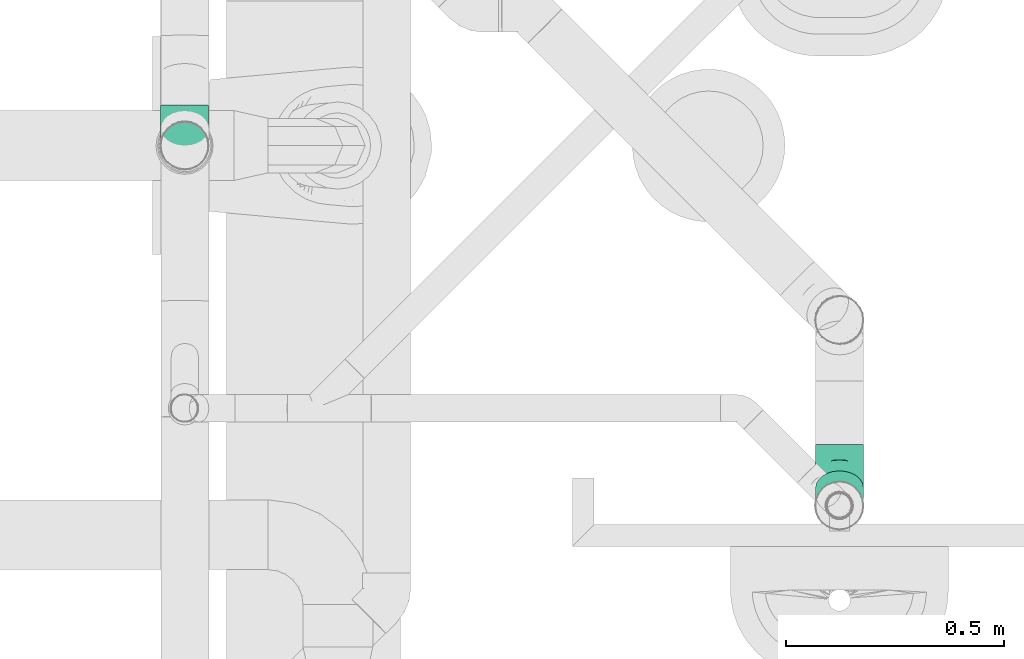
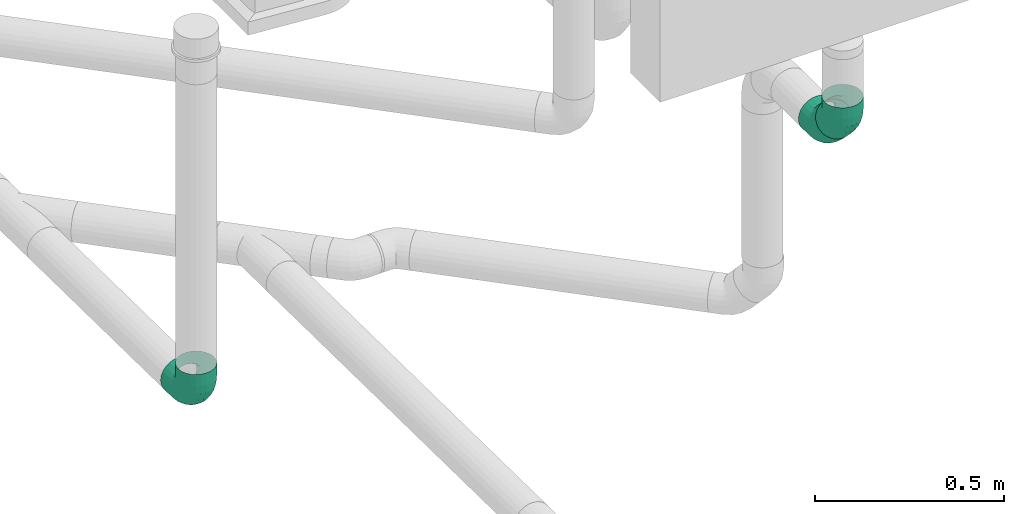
# One storey, part 127 of 374: 3 flow fittings.
"""IFC2X3 building model written with IfcOpenShell, lengths in metres."""

from ifc_helpers import new_model, si_unit, direction, origin, place, context, subcontext, project, spatial, open_shell, surface_model, source, transform, mapped, element, save


model = new_model("IFC2X3")

# Units and contexts
model_context = context("Model", 3, precision=1e-05, world=origin(), true_north=direction((-0.4480736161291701, 0.8939966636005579)))
body_context = subcontext(model_context, "Body", "Model", "MODEL_VIEW")
ifc_project = project(units=[si_unit("LENGTHUNIT", "METRE"), si_unit("AREAUNIT", "SQUARE_METRE"), si_unit("VOLUMEUNIT", "CUBIC_METRE"), si_unit("PLANEANGLEUNIT", "RADIAN"), si_unit("THERMODYNAMICTEMPERATUREUNIT", "KELVIN"), si_unit("MASSUNIT", "GRAM", prefix="KILO"), si_unit("TIMEUNIT", "SECOND")], contexts=[model_context])

# Site, building, storey
site_placement = place(None, origin())
site = spatial("IfcSite", under=ifc_project, at=site_placement, Name="Site 1", CompositionType="ELEMENT")
building_placement = place(site_placement, origin())
building = spatial("IfcBuilding", under=site, at=building_placement, Name="Undefined", CompositionType="ELEMENT")
storey_placement = place(building_placement, origin())
storey = spatial("IfcBuildingStorey", under=building, at=storey_placement, Name="Rez de chauss\x8ee", CompositionType="ELEMENT", Elevation=0.0)

# Flow fittings
shared_shape_1 = source(origin(), body_context, "Body", "SurfaceModel", [
    surface_model("IfcFaceBasedSurfaceModel", [(0.0, 0.014357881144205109, -3.552713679e-15), (0.0, 0.0, 0.0), (0.03509999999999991, 1.776356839e-15, -1.776356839e-15), (0.03509999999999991, 0.014357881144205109, 0.0), (0.0, -0.01386864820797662, -0.0037160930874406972), (0.035100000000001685, -0.01386864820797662, -0.003716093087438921), (0.0, -0.026302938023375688, -0.010895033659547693), (0.03509999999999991, -0.026302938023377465, -0.010895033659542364), (0.0, -0.03645549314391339, -0.021047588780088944), (0.035100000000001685, -0.03645549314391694, -0.021047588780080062), (0.0, -0.04363443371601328, -0.033481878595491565), (0.035100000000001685, -0.043634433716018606, -0.03348187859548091), (0.0, -0.04735052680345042, -0.04735052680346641), (0.03510000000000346, -0.04735052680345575, -0.04735052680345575), (0.0, -0.04735052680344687, -0.06170840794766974), (0.035100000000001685, -0.047350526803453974, -0.061708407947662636), (0.0, -0.04363443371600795, -0.07557705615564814), (0.035100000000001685, -0.04363443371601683, -0.07557705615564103), (0.0, -0.03645549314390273, -0.08801134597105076), (0.035100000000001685, -0.03645549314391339, -0.08801134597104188), (0.0, -0.026302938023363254, -0.0981639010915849), (0.03510000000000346, -0.026302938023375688, -0.09816390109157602), (0.0, -0.013868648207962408, -0.1053428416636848), (0.03510000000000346, -0.013868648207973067, -0.10534284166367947), (0.0, 1.5987211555e-14, -0.10905893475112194), (0.03510000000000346, 5.329070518e-15, -0.10905893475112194), (0.0, 0.014357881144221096, -0.10905893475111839), (0.035100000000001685, 0.014357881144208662, -0.10905893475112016), (0.0, 0.028226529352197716, -0.10534284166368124), (0.03510000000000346, 0.02822652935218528, -0.10534284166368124), (0.0, 0.040660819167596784, -0.0981639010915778), (0.03510000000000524, 0.040660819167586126, -0.09816390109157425), (0.0, 0.05081337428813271, -0.08801134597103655), (0.035100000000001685, 0.050813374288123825, -0.08801134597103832), (0.0, 0.05799231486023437, -0.07557705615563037), (0.035100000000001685, 0.05799231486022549, -0.07557705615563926), (0.0, 0.06170840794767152, -0.06170840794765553), (0.035100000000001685, 0.06170840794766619, -0.06170840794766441), (0.0, 0.061708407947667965, -0.0473505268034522), (0.035100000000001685, 0.061708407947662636, -0.0473505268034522), (0.0, 0.05799231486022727, -0.033481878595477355), (0.03510000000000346, 0.057992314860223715, -0.033481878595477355), (0.0, 0.050813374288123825, -0.021047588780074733), (0.035100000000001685, 0.05081337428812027, -0.021047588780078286), (0.0, 0.04066081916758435, -0.010895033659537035), (0.035100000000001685, 0.040660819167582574, -0.010895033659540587), (0.0, 0.028226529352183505, -0.0037160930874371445), (0.035100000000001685, 0.028226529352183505, -0.003716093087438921), (0.06308504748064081, -0.04369774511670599, -0.06218930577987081), (0.06357009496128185, -0.04363443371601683, -0.04783975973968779), (0.08916296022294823, -0.03298833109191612, -0.0635992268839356), (0.09010000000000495, -0.032739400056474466, -0.04927411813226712), (0.11155657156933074, -0.015952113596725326, -0.06584208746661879), (0.11288174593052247, -0.015407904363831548, -0.051555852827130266), (0.061662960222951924, -0.040167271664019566, -0.07603351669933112), (0.08641569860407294, -0.030002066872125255, -0.07737179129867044), (0.10767135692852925, -0.013831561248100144, -0.07950067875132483), (0.05940074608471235, -0.03328360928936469, -0.08842893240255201), (0.08204543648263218, -0.023984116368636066, -0.0896532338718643), (0.10149087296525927, -0.009190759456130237, -0.09160081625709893), (0.05645257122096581, -0.02351586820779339, -0.09853082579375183), (0.07635000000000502, -0.015344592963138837, -0.09960659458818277), (0.09343630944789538, -0.0023459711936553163, -0.10131789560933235), (0.053019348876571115, -0.011529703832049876, -0.1056507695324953), (0.06971752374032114, -0.004672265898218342, -0.10655356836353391), (0.08405657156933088, 0.006236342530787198, -0.10798971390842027), (0.049335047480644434, 0.0018580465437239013, -0.10930355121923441), (0.06260000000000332, 0.007305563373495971, -0.1100207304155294), (0.07399087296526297, 0.015971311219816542, -0.11116159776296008), (0.0456507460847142, 0.015735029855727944, -0.1092402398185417), (0.05548247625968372, 0.01977262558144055, -0.10977179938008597), (0.0639251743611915, 0.0261955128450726, -0.11061738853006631), (0.042217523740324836, 0.029155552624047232, -0.10546514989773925), (0.04885000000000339, 0.03187931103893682, -0.10582373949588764), (0.05454543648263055, 0.03621218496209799, -0.10639417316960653), (0.03926934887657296, 0.04120502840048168, -0.09823554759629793), (0.043154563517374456, 0.04280056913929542, -0.09844560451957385), (0.046490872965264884, 0.045338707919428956, -0.09877975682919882), (0.03700713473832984, 0.05106230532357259, -0.08804411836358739), (0.03878430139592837, 0.05179213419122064, -0.08814020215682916), (0.04031038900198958, 0.052953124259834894, -0.08829304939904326), (0.03558504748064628, 0.058055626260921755, -0.07558539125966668), (0.03603703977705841, 0.0582412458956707, -0.07560982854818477), (0.03642517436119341, 0.05853652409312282, -0.07564870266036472), (0.035585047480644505, 0.0617717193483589, -0.047358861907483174), (0.036037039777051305, 0.0619573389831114, -0.04738329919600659), (0.03642517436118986, 0.06225261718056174, -0.04742217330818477), (0.037007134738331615, 0.05824124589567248, -0.03351465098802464), (0.03878430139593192, 0.05897107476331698, -0.03361073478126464), (0.04031038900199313, 0.06013206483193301, -0.03376358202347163), (0.039269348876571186, 0.05135758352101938, -0.02111923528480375), (0.04315456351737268, 0.05295312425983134, -0.021329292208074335), (0.046490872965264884, 0.05549126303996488, -0.021663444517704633), (0.04221752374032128, 0.041589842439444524, -0.01101734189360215), (0.04884999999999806, 0.044313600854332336, -0.011375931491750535), (0.054545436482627, 0.04864647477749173, -0.01194636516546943), (0.04565074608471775, 0.029603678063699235, -0.003897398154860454), (0.05548247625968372, 0.03364127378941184, -0.004428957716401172), (0.0639251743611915, 0.040064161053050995, -0.005274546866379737), (0.04933504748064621, 0.016215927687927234, -0.0002446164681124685), (0.06260000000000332, 0.021663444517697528, -0.000961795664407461), (0.07399087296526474, 0.030329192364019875, -0.002102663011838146), (0.05301934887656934, 0.0023389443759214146, -0.0003079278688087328), (0.06971752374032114, 0.009196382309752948, -0.0012107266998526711), (0.08405657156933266, 0.020104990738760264, -0.0026468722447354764), (0.05645257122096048, -0.011081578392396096, -0.004083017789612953), (0.0763499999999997, -0.002910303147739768, -0.0051587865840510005), (0.09343630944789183, 0.010088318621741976, -0.006870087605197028), (0.059400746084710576, -0.023131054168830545, -0.011312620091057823), (0.08204543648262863, -0.01383156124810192, -0.012536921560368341), (0.1014908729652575, 0.0009617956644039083, -0.01448450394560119), (0.0616629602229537, -0.032988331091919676, -0.021504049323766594), (0.0864156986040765, -0.022823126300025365, -0.022842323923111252), (0.10767135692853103, -0.006652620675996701, -0.024971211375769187), (0.06308504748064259, -0.03998165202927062, -0.033962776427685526), (0.08916296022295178, -0.02927223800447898, -0.035372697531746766), (0.1115565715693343, -0.012236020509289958, -0.03761555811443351), (0.1363760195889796, 0.008655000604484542, -0.06908167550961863), (0.13770119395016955, 0.00919920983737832, -0.05479544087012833), (0.13249080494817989, 0.0107755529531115, -0.08274026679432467), (0.12631032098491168, 0.01541635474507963, -0.09484040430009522), (0.11825575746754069, 0.02226114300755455, -0.10455748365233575), (0.1088760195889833, 0.03084345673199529, -0.11122930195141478), (0.09881032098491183, 0.04057842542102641, -0.11440118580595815), (0.08874462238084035, 0.05080262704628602, -0.11385697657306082), (0.07936488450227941, 0.06081929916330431, -0.10963376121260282), (0.07131032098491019, 0.0699458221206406, -0.10201934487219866), (0.06512983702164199, 0.07756023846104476, -0.09153263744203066), (0.06124462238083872, 0.08314363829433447, -0.07888829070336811), (0.059919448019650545, 0.08631552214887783, -0.0649479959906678), (0.06124462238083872, 0.08685973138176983, -0.05066176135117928), (0.06512983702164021, 0.08473917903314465, -0.03700317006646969), (0.07131032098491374, 0.08009837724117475, -0.024903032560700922), (0.07936488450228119, 0.07325358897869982, -0.015185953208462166), (0.0887446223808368, 0.06467127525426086, -0.008514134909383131), (0.09881032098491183, 0.05493630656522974, -0.005342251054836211), (0.10887601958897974, 0.04471210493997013, -0.0058864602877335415), (0.11825575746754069, 0.03469543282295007, -0.010109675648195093), (0.1263103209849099, 0.02556890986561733, -0.017724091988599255), (0.13249080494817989, 0.017954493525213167, -0.0282107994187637), (0.13637601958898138, 0.012371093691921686, -0.04085514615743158)], [open_shell([[[0, 1, 2, 3]], [[1, 4, 5, 2]], [[4, 6, 7, 5]], [[6, 8, 9, 7]], [[8, 10, 11, 9]], [[10, 12, 13, 11]], [[12, 14, 15, 13]], [[14, 16, 17, 15]], [[16, 18, 19, 17]], [[18, 20, 21, 19]], [[20, 22, 23, 21]], [[22, 24, 25, 23]], [[24, 26, 27, 25]], [[26, 28, 29, 27]], [[28, 30, 31, 29]], [[30, 32, 33, 31]], [[32, 34, 35, 33]], [[34, 36, 37, 35]], [[36, 38, 39, 37]], [[38, 40, 41, 39]], [[40, 42, 43, 41]], [[42, 44, 45, 43]], [[44, 46, 47, 45]], [[46, 0, 3, 47]], [[13, 15, 48, 49]], [[49, 48, 50, 51]], [[51, 50, 52, 53]], [[15, 17, 54, 48]], [[48, 54, 55, 50]], [[50, 55, 56, 52]], [[17, 19, 57, 54]], [[54, 57, 58, 55]], [[55, 58, 59, 56]], [[19, 21, 60, 57]], [[57, 60, 61, 58]], [[58, 61, 62, 59]], [[21, 23, 63, 60]], [[60, 63, 64, 61]], [[61, 64, 65, 62]], [[23, 25, 66, 63]], [[63, 66, 67, 64]], [[64, 67, 68, 65]], [[25, 27, 69, 66]], [[66, 69, 70, 67]], [[67, 70, 71, 68]], [[27, 29, 72, 69]], [[69, 72, 73, 70]], [[70, 73, 74, 71]], [[29, 31, 75, 72]], [[72, 75, 76, 73]], [[73, 76, 77, 74]], [[31, 33, 78, 75]], [[75, 78, 79, 76]], [[76, 79, 80, 77]], [[33, 35, 81, 78]], [[78, 81, 82, 79]], [[79, 82, 83, 80]], [[35, 37, 81]], [[81, 37, 82]], [[82, 37, 83]], [[37, 39, 84]], [[37, 84, 85]], [[37, 85, 86]], [[39, 41, 87, 84]], [[84, 87, 88, 85]], [[85, 88, 89, 86]], [[41, 43, 90, 87]], [[87, 90, 91, 88]], [[88, 91, 92, 89]], [[43, 45, 93, 90]], [[90, 93, 94, 91]], [[91, 94, 95, 92]], [[45, 47, 96, 93]], [[93, 96, 97, 94]], [[94, 97, 98, 95]], [[47, 3, 99, 96]], [[96, 99, 100, 97]], [[97, 100, 101, 98]], [[3, 2, 102, 99]], [[99, 102, 103, 100]], [[100, 103, 104, 101]], [[2, 5, 105, 102]], [[102, 105, 106, 103]], [[103, 106, 107, 104]], [[5, 7, 108, 105]], [[105, 108, 109, 106]], [[106, 109, 110, 107]], [[7, 9, 111, 108]], [[108, 111, 112, 109]], [[109, 112, 113, 110]], [[9, 11, 114, 111]], [[111, 114, 115, 112]], [[112, 115, 116, 113]], [[11, 13, 49, 114]], [[114, 49, 51, 115]], [[115, 51, 53, 116]], [[53, 52, 117, 118]], [[52, 56, 119, 117]], [[56, 59, 120, 119]], [[59, 62, 121, 120]], [[62, 65, 122, 121]], [[65, 68, 123, 122]], [[68, 71, 124, 123]], [[71, 74, 125, 124]], [[74, 77, 126, 125]], [[77, 80, 127, 126]], [[80, 83, 128, 127]], [[83, 37, 129, 128]], [[37, 86, 130, 129]], [[86, 89, 131, 130]], [[89, 92, 132, 131]], [[92, 95, 133, 132]], [[95, 98, 134, 133]], [[98, 101, 135, 134]], [[101, 104, 136, 135]], [[104, 107, 137, 136]], [[107, 110, 138, 137]], [[110, 113, 139, 138]], [[113, 116, 140, 139]], [[116, 53, 118, 140]]])]),
])
flow_fitting_1_placement = place(storey_placement, origin())
element("IfcFlowFitting", 1, at=flow_fitting_1_placement, inside=storey, Name="PE-HD coude 45°", ObjectType="PE-HD coude 45°", context=body_context, shape_type="MappedRepresentation", body=[
    mapped(shared_shape_1, transform((58.62813344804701, 11.972476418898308, -0.2506836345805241), x_axis=(0.0, 0.0, -1.0), y_axis=(0.13052619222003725, 0.9914448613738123, 0.0), z_axis=(0.9914448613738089, -0.13052619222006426, 0.0))),
])
flow_fitting_2_placement = place(storey_placement, origin())
element("IfcFlowFitting", 2, at=flow_fitting_2_placement, inside=storey, Name="PE-HD coude 45°", ObjectType="PE-HD coude 45°", context=body_context, shape_type="MappedRepresentation", body=[
    mapped(shared_shape_1, transform((58.62813344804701, 12.017574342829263, -0.3595596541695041), x_axis=(-5.23364153e-16, 0.7071067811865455, -0.7071067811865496), y_axis=(0.13052619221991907, 0.7010573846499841, 0.7010573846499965), z_axis=(0.9914448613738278, -0.09229595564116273, -0.09229595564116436))),
])
shared_shape_2 = source(origin(), body_context, "Body", "SurfaceModel", [
    surface_model("IfcFaceBasedSurfaceModel", [(0.0, 0.014357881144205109, -3.552713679e-15), (0.0, 0.0, 0.0), (0.03869999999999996, -7.105427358e-15, 7.105427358e-15), (0.03869999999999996, 0.014357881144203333, 7.105427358e-15), (0.0, -0.01386864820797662, -0.0037160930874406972), (0.03869999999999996, -0.013868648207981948, -0.003716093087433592), (0.0, -0.026302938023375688, -0.010895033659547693), (0.03869999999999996, -0.02630293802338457, -0.010895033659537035), (0.0, -0.03645549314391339, -0.021047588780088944), (0.03869999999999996, -0.03645549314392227, -0.02104758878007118), (0.0, -0.04363443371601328, -0.033481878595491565), (0.03869999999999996, -0.043634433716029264, -0.033481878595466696), (0.0, -0.04735052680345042, -0.04735052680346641), (0.03869999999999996, -0.047350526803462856, -0.04735052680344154), (0.0, -0.04735052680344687, -0.06170840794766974), (0.03869999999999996, -0.047350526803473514, -0.061708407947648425), (0.0, -0.04363443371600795, -0.07557705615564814), (0.03869999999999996, -0.043634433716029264, -0.07557705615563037), (0.0, -0.03645549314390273, -0.08801134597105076), (0.03869999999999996, -0.03645549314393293, -0.088011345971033), (0.0, -0.026302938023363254, -0.0981639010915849), (0.03869999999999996, -0.02630293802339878, -0.09816390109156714), (0.0, -0.013868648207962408, -0.1053428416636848), (0.03869999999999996, -0.013868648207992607, -0.10534284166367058), (0.0, 1.5987211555e-14, -0.10905893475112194), (0.03869999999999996, -1.4210854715e-14, -0.10905893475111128), (0.0, 0.014357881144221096, -0.10905893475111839), (0.03869999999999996, 0.01435788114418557, -0.10905893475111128), (0.0, 0.028226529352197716, -0.10534284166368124), (0.03869999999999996, 0.028226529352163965, -0.10534284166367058), (0.0, 0.040660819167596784, -0.0981639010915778), (0.03869999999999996, 0.040660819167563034, -0.09816390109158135), (0.0, 0.05081337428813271, -0.08801134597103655), (0.03869999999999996, 0.050813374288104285, -0.088011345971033), (0.0, 0.05799231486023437, -0.07557705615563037), (0.03869999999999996, 0.05799231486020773, -0.07557705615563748), (0.0, 0.06170840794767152, -0.06170840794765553), (0.03869999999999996, 0.06170840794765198, -0.061708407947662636), (0.0, 0.061708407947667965, -0.0473505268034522), (0.03869999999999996, 0.06170840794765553, -0.047350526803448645), (0.0, 0.05799231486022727, -0.033481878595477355), (0.03869999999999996, 0.05799231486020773, -0.03348187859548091), (0.0, 0.050813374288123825, -0.021047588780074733), (0.03869999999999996, 0.05081337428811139, -0.02104758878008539), (0.0, 0.04066081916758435, -0.010895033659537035), (0.03869999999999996, 0.040660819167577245, -0.01089503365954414), (0.0, 0.028226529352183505, -0.0037160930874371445), (0.03869999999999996, 0.028226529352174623, -0.0037160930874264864), (0.06642387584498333, -0.04376678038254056, -0.06218021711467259), (0.06690439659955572, -0.043704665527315, -0.04783051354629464), (0.09229412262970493, -0.033255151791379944, -0.06356409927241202), (0.09322303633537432, -0.03301084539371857, -0.04923838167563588), (0.11458104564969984, -0.01651845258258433, -0.06576752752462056), (0.11589624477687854, -0.015984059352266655, -0.051480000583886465), (0.1317945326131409, 0.0053242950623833, -0.06864317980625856), (0.13340808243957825, 0.006237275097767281, -0.05440549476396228), (0.1427836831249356, 0.03081267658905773, -0.07199878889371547), (0.14458770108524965, 0.03216743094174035, -0.05781926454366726), (0.14681375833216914, 0.05824252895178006, -0.07560999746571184), (0.14868762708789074, 0.060072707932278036, -0.06149306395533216), (0.06501506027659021, -0.040232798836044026, -0.07602488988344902), (0.08957068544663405, -0.030255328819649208, -0.07733844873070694), (0.11072507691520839, -0.014369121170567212, -0.07942990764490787), (0.12706384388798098, 0.0063636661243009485, -0.08215943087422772), (0.1374945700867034, 0.03055683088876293, -0.08534452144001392), (0.14131985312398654, 0.05659280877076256, -0.08877222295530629), (0.06277395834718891, -0.03334355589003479, -0.0884210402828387), (0.08523832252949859, -0.02421580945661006, -0.08962273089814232), (0.1045911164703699, -0.009682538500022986, -0.09153607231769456), (0.11953840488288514, 0.009284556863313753, -0.0940331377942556), (0.1290808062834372, 0.03141732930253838, -0.09694697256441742), (0.13258031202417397, 0.05523597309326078, -0.10008275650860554), (0.05985329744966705, -0.023568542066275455, -0.09852389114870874), (0.07959227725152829, -0.015548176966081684, -0.0995797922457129), (0.09659718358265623, -0.002778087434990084, -0.10126100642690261), (0.1097310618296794, 0.01388791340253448, -0.10345512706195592), (0.11811577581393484, 0.0333355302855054, -0.10601545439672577), (0.12119072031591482, 0.054264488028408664, -0.10877080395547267), (0.05645211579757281, -0.011573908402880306, -0.10564494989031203), (0.07301731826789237, -0.004843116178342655, -0.10653107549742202), (0.08728805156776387, 0.005873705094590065, -0.10794197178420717), (0.09831016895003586, 0.019860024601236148, -0.10978330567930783), (0.10534672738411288, 0.036180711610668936, -0.11193196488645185), (0.10792725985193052, 0.053744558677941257, -0.114244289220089), (0.052802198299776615, 0.0018229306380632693, -0.10929892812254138), (0.06596151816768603, 0.007169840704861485, -0.11000286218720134), (0.0772981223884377, 0.015683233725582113, -0.11112367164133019), (0.08605404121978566, 0.026793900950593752, -0.1125864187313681), (0.09164385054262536, 0.03975897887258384, -0.11429330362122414), (0.09369381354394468, 0.05371161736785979, -0.11613020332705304), (0.049152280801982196, 0.01570900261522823, -0.10923681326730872), (0.05890571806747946, 0.019672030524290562, -0.10975855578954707), (0.06730819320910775, 0.025981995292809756, -0.11058927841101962), (0.07379791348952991, 0.034217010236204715, -0.11167343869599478), (0.07794097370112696, 0.04382647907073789, -0.11293854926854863), (0.07946036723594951, 0.0541679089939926, -0.11430002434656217), (0.04575109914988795, 0.02913799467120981, -0.10546283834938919), (0.05233075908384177, 0.03181144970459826, -0.10581480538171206), (0.057999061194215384, 0.036068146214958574, -0.10637521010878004), (0.06237702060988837, 0.041623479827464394, -0.10710658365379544), (0.06517192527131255, 0.04810601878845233, -0.10796002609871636), (0.0661969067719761, 0.05508233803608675, -0.10887847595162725), (0.0428304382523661, 0.04119474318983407, -0.09823419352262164), (0.04668471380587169, 0.04276081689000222, -0.09844037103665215), (0.05000512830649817, 0.0452543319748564, -0.0987686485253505), (0.05256967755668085, 0.04850857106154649, -0.09919707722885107), (0.054206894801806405, 0.052305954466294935, -0.09969701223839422), (0.05480731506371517, 0.05639258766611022, -0.1002350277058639), (0.04058933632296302, 0.051057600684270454, -0.08804349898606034), (0.04235235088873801, 0.05177395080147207, -0.08813780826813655), (0.043871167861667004, 0.05291452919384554, -0.08828796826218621), (0.04504423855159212, 0.05440307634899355, -0.08848393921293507), (0.04579313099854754, 0.056140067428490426, -0.08871261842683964), (0.04606777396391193, 0.058009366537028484, -0.08895871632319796), (0.03918052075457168, 0.05805442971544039, -0.07558523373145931), (0.039628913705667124, 0.05823662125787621, -0.07560921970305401), (0.040015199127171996, 0.0585267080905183, -0.07564741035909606), (0.040313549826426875, 0.05890529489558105, -0.07569725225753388), (0.040504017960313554, 0.05934706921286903, -0.07575541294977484), (0.04057386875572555, 0.05982249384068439, -0.07581800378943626), (0.03918052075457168, 0.06177052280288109, -0.04735870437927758), (0.039628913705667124, 0.06195271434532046, -0.047382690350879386), (0.040015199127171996, 0.0622428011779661, -0.047420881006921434), (0.040313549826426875, 0.06262138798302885, -0.04747072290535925), (0.040504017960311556, 0.06306316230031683, -0.04752888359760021), (0.040573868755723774, 0.06353858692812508, -0.04759147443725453), (0.0405893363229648, 0.058236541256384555, -0.033514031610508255), (0.04235235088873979, 0.05895289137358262, -0.03360834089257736), (0.043871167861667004, 0.06009346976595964, -0.033758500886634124), (0.04504423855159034, 0.06158201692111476, -0.03395447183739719), (0.04579313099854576, 0.06331900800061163, -0.03418315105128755), (0.04606777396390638, 0.06518830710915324, -0.03442924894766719), (0.0428304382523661, 0.05134729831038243, -0.021117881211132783), (0.04668471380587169, 0.052913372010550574, -0.021324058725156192), (0.05000512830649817, 0.055406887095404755, -0.02165233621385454), (0.05256967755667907, 0.05866112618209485, -0.02208076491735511), (0.054206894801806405, 0.06245850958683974, -0.022580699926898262), (0.05480731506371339, 0.06654514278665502, -0.02311871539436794), (0.04575109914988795, 0.041572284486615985, -0.011015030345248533), (0.05233075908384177, 0.04424573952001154, -0.01136699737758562), (0.057999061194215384, 0.0485024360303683, -0.01192740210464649), (0.06237702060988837, 0.054057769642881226, -0.012658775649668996), (0.06517192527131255, 0.06054030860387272, -0.013512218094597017), (0.0661969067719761, 0.06751662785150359, -0.014430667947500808), (0.049152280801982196, 0.029577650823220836, -0.0038939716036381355), (0.058905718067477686, 0.03354067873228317, -0.0044157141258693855), (0.06730819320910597, 0.03985064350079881, -0.0052464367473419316), (0.07379791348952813, 0.048085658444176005, -0.006330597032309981), (0.07794097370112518, 0.05769512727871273, -0.007595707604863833), (0.07946036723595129, 0.06803655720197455, -0.008957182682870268), (0.052802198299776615, 0.01618081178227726, -0.00023999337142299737), (0.06596151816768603, 0.02152772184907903, -0.000943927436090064), (0.07729812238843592, 0.030041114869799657, -0.0020647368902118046), (0.08605404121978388, 0.04115178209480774, -0.0035274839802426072), (0.09164385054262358, 0.05411686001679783, -0.005234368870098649), (0.09369381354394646, 0.06806949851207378, -0.007071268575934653), (0.056452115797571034, 0.0022947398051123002, -0.0003021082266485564), (0.07301731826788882, 0.0090255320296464, -0.0011882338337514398), (0.08728805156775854, 0.01974235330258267, -0.002599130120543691), (0.09831016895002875, 0.03372867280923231, -0.004440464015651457), (0.10534672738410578, 0.05004935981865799, -0.006589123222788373), (0.10792725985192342, 0.0676132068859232, -0.008901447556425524), (0.05985329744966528, -0.011134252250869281, -0.004076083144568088), (0.07959227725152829, -0.0031138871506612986, -0.005131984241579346), (0.09659718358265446, 0.009656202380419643, -0.006813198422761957), (0.1097310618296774, 0.026322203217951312, -0.009007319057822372), (0.11811577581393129, 0.045769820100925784, -0.011567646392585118), (0.12119072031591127, 0.06669877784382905, -0.014322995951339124), (0.06277395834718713, -0.023191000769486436, -0.011304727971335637), (0.08523832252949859, -0.01406325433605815, -0.012506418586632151), (0.10459111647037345, 0.00047001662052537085, -0.014419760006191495), (0.11953840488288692, 0.019437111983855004, -0.01691682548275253), (0.12908080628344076, 0.041569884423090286, -0.019830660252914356), (0.13258031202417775, 0.06538852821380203, -0.022966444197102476), (0.06501506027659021, -0.033053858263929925, -0.021495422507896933), (0.08957068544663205, -0.02307638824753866, -0.022808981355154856), (0.11072507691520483, -0.007190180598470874, -0.024900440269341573), (0.1270638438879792, 0.013542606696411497, -0.027629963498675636), (0.1374945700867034, 0.03773577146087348, -0.030815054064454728), (0.14131985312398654, 0.063771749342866, -0.0342427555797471), (0.06642387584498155, -0.04005068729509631, -0.033953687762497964), (0.09229412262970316, -0.02953905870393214, -0.035337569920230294), (0.11458104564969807, -0.012802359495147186, -0.03754099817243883), (0.1317945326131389, 0.009040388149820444, -0.040416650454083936), (0.14278368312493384, 0.03452876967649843, -0.04377225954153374), (0.14681375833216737, 0.061958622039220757, -0.04738346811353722), (0.14739419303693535, 0.09660712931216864, -0.08066079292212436), (0.14926806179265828, 0.09843730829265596, -0.06654385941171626), (0.1419002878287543, 0.09495740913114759, -0.0938230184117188), (0.1331607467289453, 0.09360057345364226, -0.10513355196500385), (0.1217711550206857, 0.09262908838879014, -0.11382159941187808), (0.10850769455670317, 0.09210915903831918, -0.11929508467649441), (0.09427424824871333, 0.09207621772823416, -0.12118099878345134), (0.0800408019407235, 0.09253250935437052, -0.11935081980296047), (0.06677734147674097, 0.09344693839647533, -0.11392927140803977), (0.055387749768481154, 0.09475718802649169, -0.10528582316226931), (0.046648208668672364, 0.09637396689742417, -0.09400951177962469), (0.041154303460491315, 0.09818709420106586, -0.08086879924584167), (0.039280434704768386, 0.10007300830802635, -0.06675920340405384), (0.041154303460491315, 0.10190318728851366, -0.05264226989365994), (0.046648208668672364, 0.10355290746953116, -0.039480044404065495), (0.055387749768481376, 0.10490974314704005, -0.02816951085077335), (0.06677734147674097, 0.10588122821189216, -0.019481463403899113), (0.0800408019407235, 0.10640115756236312, -0.014007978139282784), (0.09427424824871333, 0.10643409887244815, -0.012122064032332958), (0.10850769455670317, 0.10597780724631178, -0.013952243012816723), (0.1217711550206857, 0.10506337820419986, -0.01937379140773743), (0.1331607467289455, 0.10375312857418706, -0.02801723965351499), (0.1419002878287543, 0.10213634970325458, -0.03929355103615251), (0.14739419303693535, 0.10032322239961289, -0.05243426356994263)], [open_shell([[[0, 1, 2, 3]], [[1, 4, 5, 2]], [[4, 6, 7, 5]], [[6, 8, 9, 7]], [[8, 10, 11, 9]], [[10, 12, 13, 11]], [[12, 14, 15, 13]], [[14, 16, 17, 15]], [[16, 18, 19, 17]], [[18, 20, 21, 19]], [[20, 22, 23, 21]], [[22, 24, 25, 23]], [[24, 26, 27, 25]], [[26, 28, 29, 27]], [[28, 30, 31, 29]], [[30, 32, 33, 31]], [[32, 34, 35, 33]], [[34, 36, 37, 35]], [[36, 38, 39, 37]], [[38, 40, 41, 39]], [[40, 42, 43, 41]], [[42, 44, 45, 43]], [[44, 46, 47, 45]], [[46, 0, 3, 47]], [[13, 15, 48, 49]], [[49, 48, 50, 51]], [[51, 50, 52, 53]], [[53, 52, 54, 55]], [[55, 54, 56, 57]], [[57, 56, 58, 59]], [[15, 17, 60, 48]], [[48, 60, 61, 50]], [[50, 61, 62, 52]], [[52, 62, 63, 54]], [[54, 63, 64, 56]], [[56, 64, 65, 58]], [[17, 19, 66, 60]], [[60, 66, 67, 61]], [[61, 67, 68, 62]], [[62, 68, 69, 63]], [[63, 69, 70, 64]], [[64, 70, 71, 65]], [[19, 21, 72, 66]], [[66, 72, 73, 67]], [[67, 73, 74, 68]], [[68, 74, 75, 69]], [[69, 75, 76, 70]], [[70, 76, 77, 71]], [[21, 23, 78, 72]], [[72, 78, 79, 73]], [[73, 79, 80, 74]], [[74, 80, 81, 75]], [[75, 81, 82, 76]], [[76, 82, 83, 77]], [[23, 25, 84, 78]], [[78, 84, 85, 79]], [[79, 85, 86, 80]], [[80, 86, 87, 81]], [[81, 87, 88, 82]], [[82, 88, 89, 83]], [[25, 27, 90, 84]], [[84, 90, 91, 85]], [[85, 91, 92, 86]], [[86, 92, 93, 87]], [[87, 93, 94, 88]], [[88, 94, 95, 89]], [[27, 29, 96, 90]], [[90, 96, 97, 91]], [[91, 97, 98, 92]], [[92, 98, 99, 93]], [[93, 99, 100, 94]], [[94, 100, 101, 95]], [[29, 31, 102, 96]], [[96, 102, 103, 97]], [[97, 103, 104, 98]], [[98, 104, 105, 99]], [[99, 105, 106, 100]], [[100, 106, 107, 101]], [[31, 33, 108, 102]], [[102, 108, 109, 103]], [[103, 109, 110, 104]], [[104, 110, 111, 105]], [[105, 111, 112, 106]], [[106, 112, 113, 107]], [[33, 35, 114, 108]], [[108, 114, 115, 109]], [[109, 115, 116, 110]], [[110, 116, 117, 111]], [[111, 117, 118, 112]], [[112, 118, 119, 113]], [[35, 37, 114]], [[114, 37, 115]], [[115, 37, 116]], [[116, 37, 117]], [[117, 37, 118]], [[118, 37, 119]], [[37, 39, 120]], [[37, 120, 121]], [[37, 121, 122]], [[37, 122, 123]], [[37, 123, 124]], [[37, 124, 125]], [[39, 41, 126, 120]], [[120, 126, 127, 121]], [[121, 127, 128, 122]], [[122, 128, 129, 123]], [[123, 129, 130, 124]], [[124, 130, 131, 125]], [[41, 43, 132, 126]], [[126, 132, 133, 127]], [[127, 133, 134, 128]], [[128, 134, 135, 129]], [[129, 135, 136, 130]], [[130, 136, 137, 131]], [[43, 45, 138, 132]], [[132, 138, 139, 133]], [[133, 139, 140, 134]], [[134, 140, 141, 135]], [[135, 141, 142, 136]], [[136, 142, 143, 137]], [[45, 47, 144, 138]], [[138, 144, 145, 139]], [[139, 145, 146, 140]], [[140, 146, 147, 141]], [[141, 147, 148, 142]], [[142, 148, 149, 143]], [[47, 3, 150, 144]], [[144, 150, 151, 145]], [[145, 151, 152, 146]], [[146, 152, 153, 147]], [[147, 153, 154, 148]], [[148, 154, 155, 149]], [[3, 2, 156, 150]], [[150, 156, 157, 151]], [[151, 157, 158, 152]], [[152, 158, 159, 153]], [[153, 159, 160, 154]], [[154, 160, 161, 155]], [[2, 5, 162, 156]], [[156, 162, 163, 157]], [[157, 163, 164, 158]], [[158, 164, 165, 159]], [[159, 165, 166, 160]], [[160, 166, 167, 161]], [[5, 7, 168, 162]], [[162, 168, 169, 163]], [[163, 169, 170, 164]], [[164, 170, 171, 165]], [[165, 171, 172, 166]], [[166, 172, 173, 167]], [[7, 9, 174, 168]], [[168, 174, 175, 169]], [[169, 175, 176, 170]], [[170, 176, 177, 171]], [[171, 177, 178, 172]], [[172, 178, 179, 173]], [[9, 11, 180, 174]], [[174, 180, 181, 175]], [[175, 181, 182, 176]], [[176, 182, 183, 177]], [[177, 183, 184, 178]], [[178, 184, 185, 179]], [[11, 13, 49, 180]], [[180, 49, 51, 181]], [[181, 51, 53, 182]], [[182, 53, 55, 183]], [[183, 55, 57, 184]], [[184, 57, 59, 185]], [[59, 58, 186, 187]], [[58, 65, 188, 186]], [[65, 71, 189, 188]], [[71, 77, 190, 189]], [[77, 83, 191, 190]], [[83, 89, 192, 191]], [[89, 95, 193, 192]], [[95, 101, 194, 193]], [[101, 107, 195, 194]], [[107, 113, 196, 195]], [[113, 119, 197, 196]], [[119, 37, 198, 197]], [[37, 125, 199, 198]], [[125, 131, 200, 199]], [[131, 137, 201, 200]], [[137, 143, 202, 201]], [[143, 149, 203, 202]], [[149, 155, 204, 203]], [[155, 161, 205, 204]], [[161, 167, 206, 205]], [[167, 173, 207, 206]], [[173, 179, 208, 207]], [[179, 185, 209, 208]], [[185, 59, 187, 209]]])]),
])
flow_fitting_3_placement = place(storey_placement, origin())
element("IfcFlowFitting", 3, at=flow_fitting_3_placement, inside=storey, Name="PE-HD équerre de raccordement 88.5°", ObjectType="PE-HD équerre de raccordement 88.5°", context=body_context, shape_type="MappedRepresentation", body=[
    mapped(shared_shape_2, transform((57.12651762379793, 12.797656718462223, -1.0878484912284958), x_axis=(0.0, 0.0, -1.0), y_axis=(0.13052619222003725, 0.9914448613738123, 0.0), z_axis=(0.9914448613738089, -0.13052619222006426, 0.0))),
])

save(model, "model.ifc")
